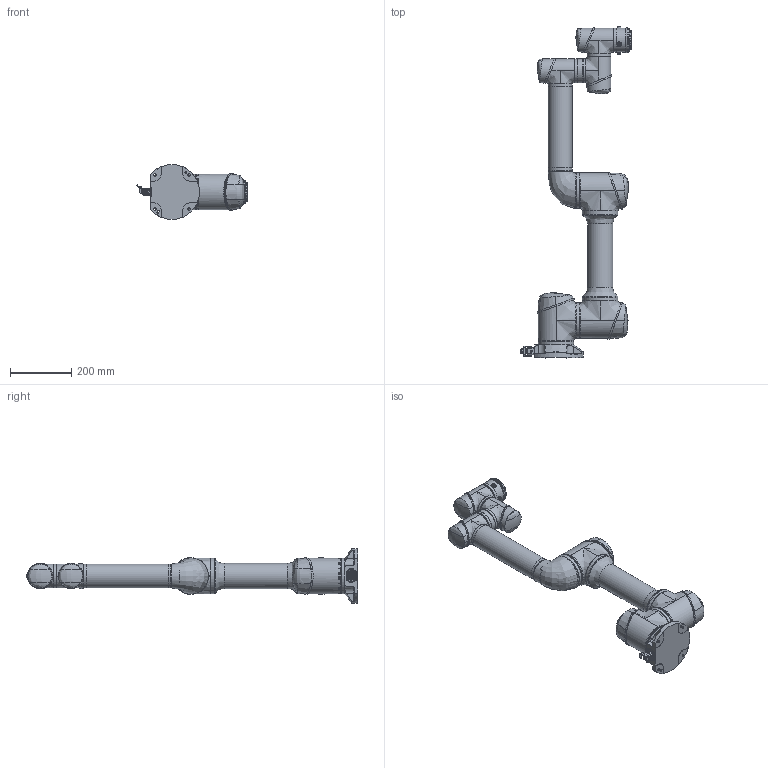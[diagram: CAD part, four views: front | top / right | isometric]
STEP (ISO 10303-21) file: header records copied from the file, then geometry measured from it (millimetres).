
FILE_DESCRIPTION (( 'STEP AP214' ), '1' );
FILE_NAME ('GCR7-910.STEP', '2024-02-06T00:39:10', ( '' ), ( '' ), 'SwSTEP 2.0', 'SolidWorks 2017', '' );
FILE_SCHEMA (( 'AUTOMOTIVE_DESIGN' ));
Length unit declared in the file: millimetre
Products named in the file (15): GCR7-J4; GCR7-J3; GCR7-J5; GCR7-J6; GCR7-J2; GCR7-910; GCR7-J1; GCR7-J0
Assembly tree (7 placements, depth 2):
  GCR7-J4
  GCR7-J6
  GCR7-J5
  GCR7-910
    GCR7-J0
    GCR7-J1
    GCR7-J2
    GCR7-J3
    GCR7-J4
    GCR7-J5
    GCR7-J6
  GCR7-J1
Bounding box: 360.28 x 1085.5 x 179.4 mm (x, y, z)
Volume: 3205163.7 mm3; surface area: 1380446.3 mm2
Topology: 51 solids, 63 shells, 2221 faces, 5751 edges, 3774 vertices
Faces by surface type: plane 1166, bspline 462, cylinder 428, cone 112, torus 37, sphere 16
Full cylindrical faces by diameter (mm): 1.25 x1, 1.5 x5, 1.9 x1, 2.5 x9, 2.65 x14, 2.8 x1, 2.9 x5, 3 x4, 3.2 x2, 3.4 x8, 4.2 x2, 4.7 x2, 4.8 x2, 5 x4, 6 x12, 6.5 x3, 6.8 x2, 8 x2, 8.9 x2, 9 x4, 11 x4, 12 x4, 16 x2, 18 x2, 31.5 x1, 40 x1, 50.345 x1, 63 x1, 70.919 x1, 72 x3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
Entity records: 190764 total; most frequent: CARTESIAN_POINT 138402, ORIENTED_EDGE 10692, DIRECTION 8453, EDGE_CURVE 5346, VERTEX_POINT 3672, LINE 3001, VECTOR 3001, EDGE_LOOP 2804
